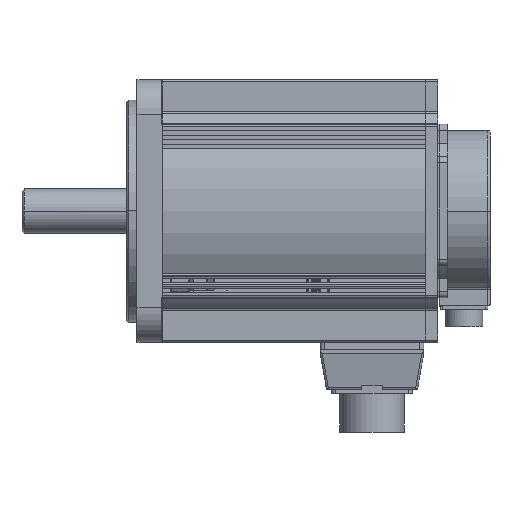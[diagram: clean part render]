
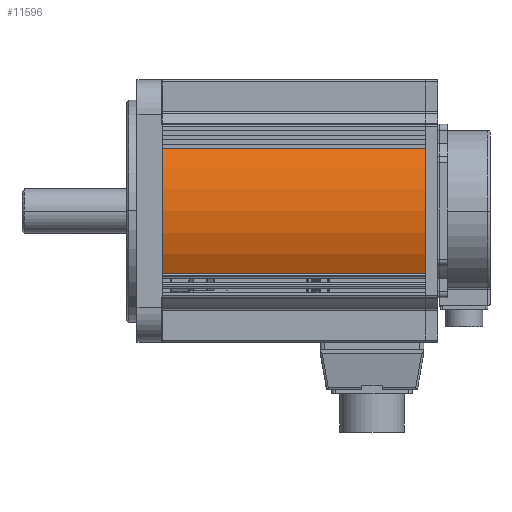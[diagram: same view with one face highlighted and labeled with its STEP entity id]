
A CAD part, top view. The second image highlights one B-rep face of the part: STEP entity #11596.
In plain terms, the highlighted cylindrical face has radius 65 mm (diameter 130 mm), a partial arc.
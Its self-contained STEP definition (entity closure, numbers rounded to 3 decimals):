
#11570 = VERTEX_POINT('',#11571);
#11571 = CARTESIAN_POINT('',(-0.153,-31.,57.131));
#11579 = VERTEX_POINT('',#11580);
#11580 = CARTESIAN_POINT('',(130.347,-31.,57.131));
#11586 = EDGE_CURVE('',#11579,#11570,#11587,.T.);
#11587 = LINE('',#11588,#11589);
#11588 = CARTESIAN_POINT('',(130.347,-31.,57.131));
#11589 = VECTOR('',#11590,1.);
#11590 = DIRECTION('',(-1.,0.,0.));
#11596 = ADVANCED_FACE('',(#11597),#11624,.T.);
#11597 = FACE_BOUND('',#11598,.T.);
#11598 = EDGE_LOOP('',(#11599,#11608,#11609,#11618));
#11599 = ORIENTED_EDGE('',*,*,#11600,.T.);
#11600 = EDGE_CURVE('',#11601,#11570,#11603,.T.);
#11601 = VERTEX_POINT('',#11602);
#11602 = CARTESIAN_POINT('',(-0.153,31.,57.131));
#11603 = CIRCLE('',#11604,65.);
#11604 = AXIS2_PLACEMENT_3D('',#11605,#11606,#11607);
#11605 = CARTESIAN_POINT('',(-0.153,0.,
    0.));
#11606 = DIRECTION('',(1.,0.,0.));
#11607 = DIRECTION('',(0.,1.,0.));
#11608 = ORIENTED_EDGE('',*,*,#11586,.F.);
#11609 = ORIENTED_EDGE('',*,*,#11610,.F.);
#11610 = EDGE_CURVE('',#11611,#11579,#11613,.T.);
#11611 = VERTEX_POINT('',#11612);
#11612 = CARTESIAN_POINT('',(130.347,31.,57.131));
#11613 = CIRCLE('',#11614,65.);
#11614 = AXIS2_PLACEMENT_3D('',#11615,#11616,#11617);
#11615 = CARTESIAN_POINT('',(130.347,0.,
    0.));
#11616 = DIRECTION('',(1.,0.,0.));
#11617 = DIRECTION('',(0.,1.,0.));
#11618 = ORIENTED_EDGE('',*,*,#11619,.T.);
#11619 = EDGE_CURVE('',#11611,#11601,#11620,.T.);
#11620 = LINE('',#11621,#11622);
#11621 = CARTESIAN_POINT('',(130.347,31.,57.131));
#11622 = VECTOR('',#11623,1.);
#11623 = DIRECTION('',(-1.,0.,0.));
#11624 = CYLINDRICAL_SURFACE('',#11625,65.);
#11625 = AXIS2_PLACEMENT_3D('',#11626,#11627,#11628);
#11626 = CARTESIAN_POINT('',(130.347,0.,
    0.));
#11627 = DIRECTION('',(-1.,0.,0.));
#11628 = DIRECTION('',(0.,-1.,0.));
